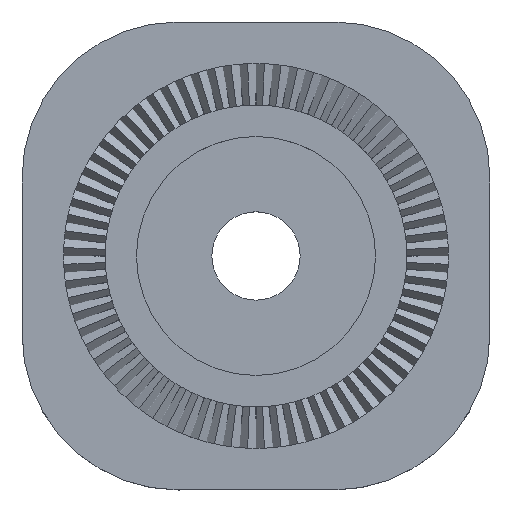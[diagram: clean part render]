
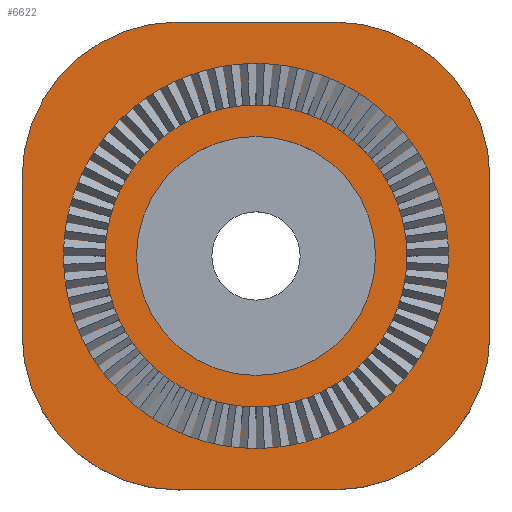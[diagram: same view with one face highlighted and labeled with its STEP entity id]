
A CAD part, top view. The second image highlights one B-rep face of the part: STEP entity #6622.
In plain terms, the highlighted planar face has unit normal (0, 0, 1).
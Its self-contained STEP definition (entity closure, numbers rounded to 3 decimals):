
#183 = AXIS2_PLACEMENT_3D ( 'NONE', #690, #691, #692 ) ;
#538 = VERTEX_POINT ( 'NONE', #10217 ) ;
#539 = VERTEX_POINT ( 'NONE', #10218 ) ;
#574 = VERTEX_POINT ( 'NONE', #10289 ) ;
#577 = VERTEX_POINT ( 'NONE', #10292 ) ;
#578 = VERTEX_POINT ( 'NONE', #10293 ) ;
#580 = VERTEX_POINT ( 'NONE', #10295 ) ;
#582 = VERTEX_POINT ( 'NONE', #10297 ) ;
#584 = VERTEX_POINT ( 'NONE', #10299 ) ;
#585 = VERTEX_POINT ( 'NONE', #10300 ) ;
#686 = FACE_BOUND ( 'NONE', #8368, .T. ) ;
#687 = FACE_OUTER_BOUND ( 'NONE', #8371, .T. ) ;
#688 = PLANE ( 'NONE',  #183 ) ;
#690 = CARTESIAN_POINT ( 'NONE',  ( -900.756, 1965.144, 5. ) ) ;
#691 = DIRECTION ( 'NONE',  ( 0., 0., 1. ) ) ;
#692 = DIRECTION ( 'NONE',  ( 1., 0., 0. ) ) ;
#2707 = CARTESIAN_POINT ( 'NONE',  ( -930.756, 1965.144, 5. ) ) ;
#3099 = CARTESIAN_POINT ( 'NONE',  ( -908.256, 1972.644, 5. ) ) ;
#3100 = DIRECTION ( 'NONE',  ( 0., 0., 1. ) ) ;
#3101 = DIRECTION ( 'NONE',  ( 1., 0., 0. ) ) ;
#3214 = LINE ( 'NONE', #3222, #6234 ) ;
#3218 = CARTESIAN_POINT ( 'NONE',  ( -885.756, 1965.144, 5. ) ) ;
#3219 = CARTESIAN_POINT ( 'NONE',  ( -908.256, 1972.644, 5. ) ) ;
#3220 = DIRECTION ( 'NONE',  ( 0., 0., 1. ) ) ;
#3221 = DIRECTION ( 'NONE',  ( 1., 0., 0. ) ) ;
#3222 = CARTESIAN_POINT ( 'NONE',  ( -900.756, 1995.144, 5. ) ) ;
#3223 = LINE ( 'NONE', #3218, #6218 ) ;
#3224 = CARTESIAN_POINT ( 'NONE',  ( -900.756, 1965.144, 5. ) ) ;
#3225 = DIRECTION ( 'NONE',  ( 0., 0., 1. ) ) ;
#3226 = DIRECTION ( 'NONE',  ( 1., 0., 0. ) ) ;
#3227 = DIRECTION ( 'NONE',  ( 0., 1., 0. ) ) ;
#3228 = LINE ( 'NONE', #3229, #6240 ) ;
#3229 = CARTESIAN_POINT ( 'NONE',  ( -930.756, 1980.144, 5. ) ) ;
#3230 = CARTESIAN_POINT ( 'NONE',  ( -900.756, 1980.144, 5. ) ) ;
#3231 = DIRECTION ( 'NONE',  ( 0., 0., 1. ) ) ;
#3232 = DIRECTION ( 'NONE',  ( 1., 0., 0. ) ) ;
#3233 = DIRECTION ( 'NONE',  ( -1., 0., 0. ) ) ;
#3234 = LINE ( 'NONE', #3235, #6246 ) ;
#3235 = CARTESIAN_POINT ( 'NONE',  ( -915.756, 1950.144, 5. ) ) ;
#3236 = CARTESIAN_POINT ( 'NONE',  ( -915.756, 1980.144, 5. ) ) ;
#3237 = DIRECTION ( 'NONE',  ( 0., 0., 1. ) ) ;
#3238 = DIRECTION ( 'NONE',  ( 1., 0., 0. ) ) ;
#3239 = DIRECTION ( 'NONE',  ( 0., -1., 0. ) ) ;
#3242 = CARTESIAN_POINT ( 'NONE',  ( -915.756, 1965.144, 5. ) ) ;
#3243 = DIRECTION ( 'NONE',  ( 0., 0., 1. ) ) ;
#3244 = DIRECTION ( 'NONE',  ( 1., 0., 0. ) ) ;
#3245 = DIRECTION ( 'NONE',  ( 1., 0., 0. ) ) ;
#5932 = CIRCLE ( 'NONE', #5964, 11.5 ) ;
#5964 = AXIS2_PLACEMENT_3D ( 'NONE', #3099, #3100, #3101 ) ;
#6218 = VECTOR ( 'NONE', #3227, 1000. ) ;
#6220 = CIRCLE ( 'NONE', #6226, 11.5 ) ;
#6224 = CIRCLE ( 'NONE', #6230, 15. ) ;
#6226 = AXIS2_PLACEMENT_3D ( 'NONE', #3219, #3220, #3221 ) ;
#6230 = AXIS2_PLACEMENT_3D ( 'NONE', #3224, #3225, #3226 ) ;
#6232 = CIRCLE ( 'NONE', #6236, 15. ) ;
#6234 = VECTOR ( 'NONE', #3233, 1000. ) ;
#6236 = AXIS2_PLACEMENT_3D ( 'NONE', #3230, #3231, #3232 ) ;
#6238 = CIRCLE ( 'NONE', #6242, 15. ) ;
#6240 = VECTOR ( 'NONE', #3239, 1000. ) ;
#6242 = AXIS2_PLACEMENT_3D ( 'NONE', #3236, #3237, #3238 ) ;
#6244 = CIRCLE ( 'NONE', #6248, 15. ) ;
#6246 = VECTOR ( 'NONE', #3245, 1000. ) ;
#6248 = AXIS2_PLACEMENT_3D ( 'NONE', #3242, #3243, #3244 ) ;
#6622 = ADVANCED_FACE ( 'NONE', ( #686, #687 ), #688, .T. ) ;
#7245 = VERTEX_POINT ( 'NONE', #2707 ) ;
#8368 = EDGE_LOOP ( 'NONE', ( #9634, #9635 ) ) ;
#8371 = EDGE_LOOP ( 'NONE', ( #9636, #9637, #9638, #9639, #9640, #9641, #9642, #9643 ) ) ;
#8554 = EDGE_CURVE ( 'NONE', #538, #539, #5932, .T. ) ;
#8594 = EDGE_CURVE ( 'NONE', #539, #538, #6220, .T. ) ;
#8595 = EDGE_CURVE ( 'NONE', #574, #578, #6224, .T. ) ;
#8596 = EDGE_CURVE ( 'NONE', #578, #582, #3223, .T. ) ;
#8597 = EDGE_CURVE ( 'NONE', #582, #580, #6232, .T. ) ;
#8598 = EDGE_CURVE ( 'NONE', #580, #584, #3214, .T. ) ;
#8599 = EDGE_CURVE ( 'NONE', #584, #585, #6238, .T. ) ;
#8600 = EDGE_CURVE ( 'NONE', #585, #7245, #3228, .T. ) ;
#8601 = EDGE_CURVE ( 'NONE', #7245, #577, #6244, .T. ) ;
#8602 = EDGE_CURVE ( 'NONE', #577, #574, #3234, .T. ) ;
#9634 = ORIENTED_EDGE ( 'NONE', *, *, #8594, .F. ) ;
#9635 = ORIENTED_EDGE ( 'NONE', *, *, #8554, .F. ) ;
#9636 = ORIENTED_EDGE ( 'NONE', *, *, #8595, .T. ) ;
#9637 = ORIENTED_EDGE ( 'NONE', *, *, #8596, .T. ) ;
#9638 = ORIENTED_EDGE ( 'NONE', *, *, #8597, .T. ) ;
#9639 = ORIENTED_EDGE ( 'NONE', *, *, #8598, .T. ) ;
#9640 = ORIENTED_EDGE ( 'NONE', *, *, #8599, .T. ) ;
#9641 = ORIENTED_EDGE ( 'NONE', *, *, #8600, .T. ) ;
#9642 = ORIENTED_EDGE ( 'NONE', *, *, #8601, .T. ) ;
#9643 = ORIENTED_EDGE ( 'NONE', *, *, #8602, .T. ) ;
#10217 = CARTESIAN_POINT ( 'NONE',  ( -919.756, 1972.644, 5. ) ) ;
#10218 = CARTESIAN_POINT ( 'NONE',  ( -896.756, 1972.644, 5. ) ) ;
#10289 = CARTESIAN_POINT ( 'NONE',  ( -900.756, 1950.144, 5. ) ) ;
#10292 = CARTESIAN_POINT ( 'NONE',  ( -915.756, 1950.144, 5. ) ) ;
#10293 = CARTESIAN_POINT ( 'NONE',  ( -885.756, 1965.144, 5. ) ) ;
#10295 = CARTESIAN_POINT ( 'NONE',  ( -900.756, 1995.144, 5. ) ) ;
#10297 = CARTESIAN_POINT ( 'NONE',  ( -885.756, 1980.144, 5. ) ) ;
#10299 = CARTESIAN_POINT ( 'NONE',  ( -915.756, 1995.144, 5. ) ) ;
#10300 = CARTESIAN_POINT ( 'NONE',  ( -930.756, 1980.144, 5. ) ) ;
